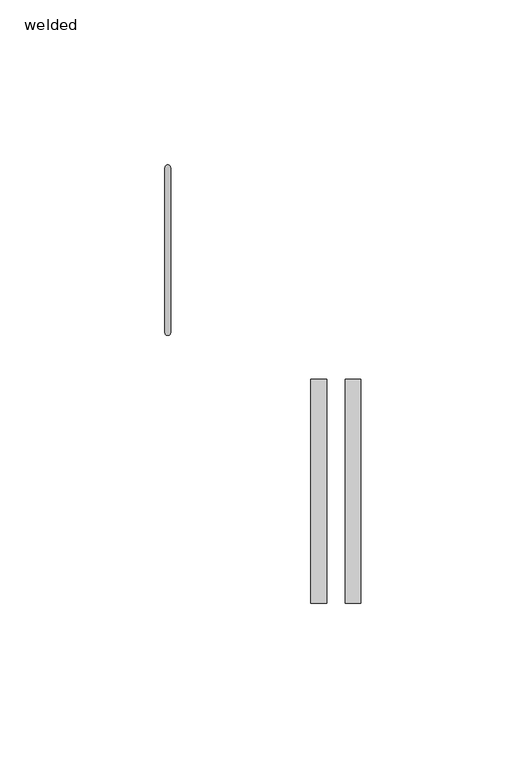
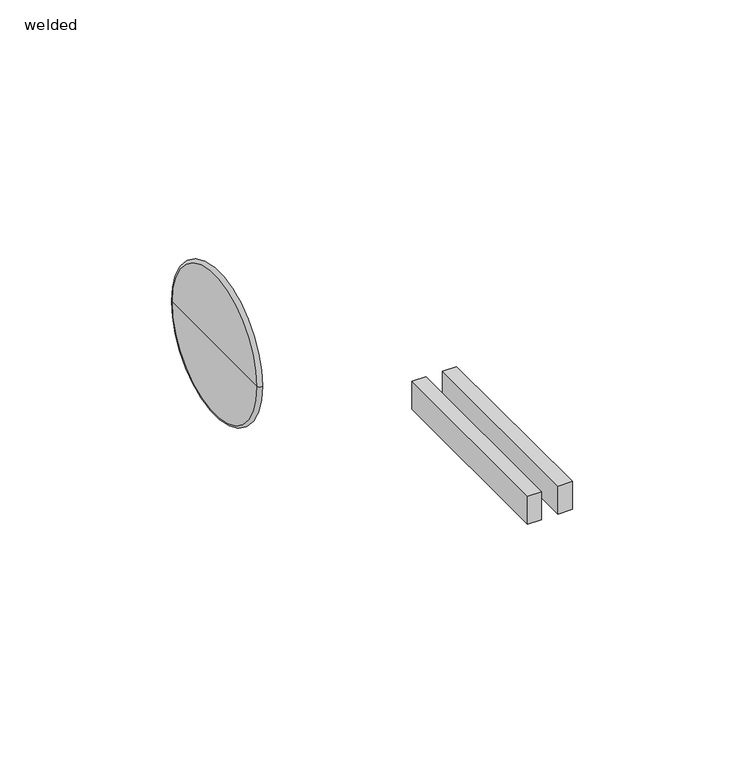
"""IFC4 building model written with IfcOpenShell, lengths in millimetres: pipe fitting geometry, NLRS_52_PIF_UN_HDPE weld_Akatherm : welded."""

from ifc_helpers import new_model, si_unit, point, frame, origin, place, context, project, spatial, polyline, circle_curve, ellipse_curve, trimmed, outline, extrude, source, transform, mapped, element, save
from ifc_brep_helpers import plane_surface, revolved_surface, advanced_brep


def welded_75b1cb19(model_context):
    return source(origin(), model_context, "Body", "SolidModel", [
        extrude(outline(polyline([(42.5311847, -106.9421922), (42.5311847, -39.143993), (47.3087456, -39.143993), (47.3087456, -106.9421922), (42.5311847, -106.9421922)])), frame((0.0, 0.0, -15.0), z_axis=(0.0, 0.0, 1.0), x_axis=(1.0, 0.0, 0.0)), (0.0, 0.0, 1.0), 10.0),
        extrude(outline(polyline([(52.9005519, -106.9421922), (52.9005519, -39.143993), (57.6781127, -39.143993), (57.6781127, -106.9421922), (52.9005519, -106.9421922)])), frame((0.0, 0.0, -15.0), z_axis=(0.0, 0.0, 1.0), x_axis=(1.0, 0.0, 0.0)), (0.0, 0.0, 1.0), 10.0),
        advanced_brep(
        [(-1.7, -25.0, 0.0), (-1.7, 25.0, 0.0), (0.0, 25.0, 0.0), (0.0, -25.0, 0.0), (-1.7, 0.0, 0.0), (0.0, 0.0, 0.0)],
        [
            (0, 1, circle_curve(frame((-1.7, 0.0, 0.0), z_axis=(1.0, 0.0, 0.0), x_axis=(0.0, 1.0, 0.0)), 25.0)),
            (1, 2, circle_curve(frame((-0.85, 25.0, 0.0), z_axis=(0.0, 0.0, -1.0), x_axis=(1.0, 0.0, 0.0)), 0.85)),
            (2, 3, circle_curve(frame((0.0, 0.0, 0.0), z_axis=(-1.0, 0.0, 0.0), x_axis=(0.0, 1.0, 0.0)), 25.0)),
            (3, 0, circle_curve(frame((-0.85, -25.0, 0.0), z_axis=(0.0, 0.0, -1.0), x_axis=(1.0, 0.0, 0.0)), 0.85)),
            (1, 0, circle_curve(frame((-1.7, 0.0, 0.0), z_axis=(1.0, 0.0, 0.0), x_axis=(0.0, 1.0, 0.0)), 25.0)),
            (3, 2, circle_curve(frame((0.0, 0.0, 0.0), z_axis=(-1.0, 0.0, 0.0), x_axis=(0.0, 1.0, 0.0)), 25.0)),
            (4, 1),
            (0, 4),
            (2, 5),
            (5, 3),
        ],
        [
            revolved_surface(trimmed(ellipse_curve(frame((-0.85, 25.0, 0.0), z_axis=(0.0, 0.0, 1.0), x_axis=(1.0, 0.0, 0.0)), 0.85, 0.85), [point((0.0, 25.0, 0.0))], [point((-1.7, 25.0, 0.0))], True, "CARTESIAN"), (-39.85, 0.0, 0.0), (-1.0, 0.0, 0.0)),
            plane_surface(frame((-1.7, 0.0, 0.0), z_axis=(-1.0, 0.0, 0.0), x_axis=(0.0, 1.0, 0.0))),
            plane_surface(frame((0.0, 0.0, 0.0), z_axis=(1.0, 0.0, 0.0), x_axis=(0.0, 1.0, 0.0))),
        ],
        [
            (0, [[1, 2, 3, 4]]),
            (0, [[5, -4, 6, -2]]),
            (1, [[7, -1, 8]]),
            (1, [[-8, -5, -7]]),
            (2, [[-3, 9, 10]]),
            (2, [[-6, -10, -9]]),
        ],
    ),
    ])


if __name__ == "__main__":
    model = new_model("IFC4")
    model_context = context("Model", 3, world=origin())
    ifc_project = project(units=[si_unit("LENGTHUNIT", "METRE", prefix="MILLI")], contexts=[model_context])
    site = spatial("IfcSite", under=ifc_project)
    building = spatial("IfcBuilding", under=site)
    placement = place(None, origin())
    welded_shape = welded_75b1cb19(model_context)
    element("IfcPipeFitting", 1, ObjectType="NLRS_52_PIF_UN_HDPE weld_Akatherm : welded", at=placement, inside=building, context=model_context, shape_type="MappedRepresentation", body=[
        mapped(welded_shape, transform((0.0, 0.0, 0.0), x_axis=(1.0, 0.0, 0.0), y_axis=(0.0, 1.0, 0.0), z_axis=(0.0, 0.0, 1.0))),
    ])
    save(model, "model.ifc")
